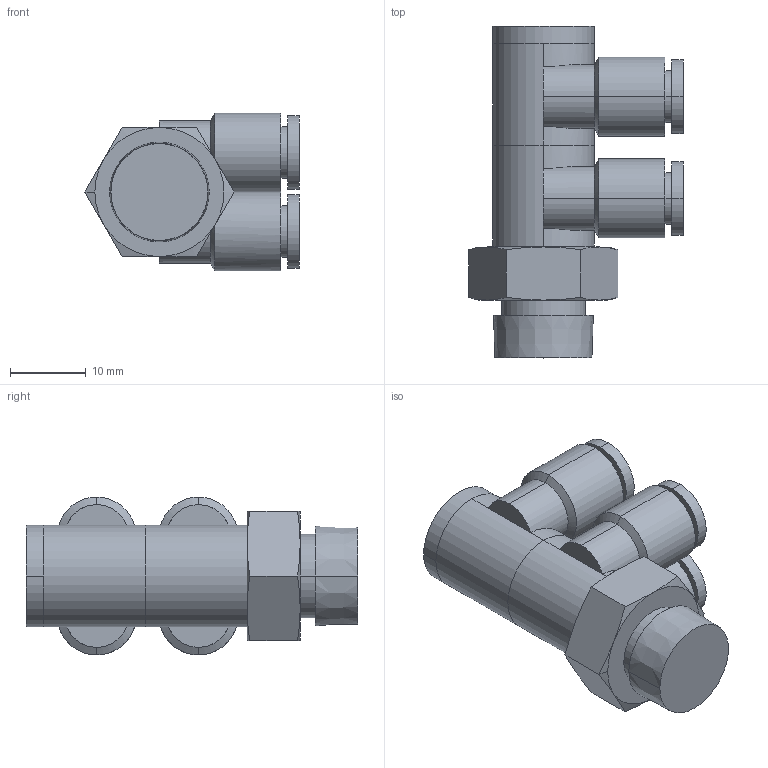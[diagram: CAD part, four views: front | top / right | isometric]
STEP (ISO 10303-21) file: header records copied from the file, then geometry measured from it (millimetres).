
FILE_DESCRIPTION (( 'STEP AP203' ), '1' );
FILE_NAME ('FZD06-02.STEP', '2020-05-11T14:47:16', ( '' ), ( '' ), 'SwSTEP 2.0', 'SolidWorks 2019', '' );
FILE_SCHEMA (( 'CONFIG_CONTROL_DESIGN' ));
Length unit declared in the file: millimetre
Products named in the file (1): FZD06-02
Bounding box: 28.21 x 43.7 x 20.8 mm (x, y, z)
Volume: 9692.3 mm3; surface area: 7901.1 mm2
Topology: 3 solids, 3 shells, 118 faces, 274 edges, 172 vertices
Faces by surface type: cylinder 52, plane 42, cone 24
Entity records: 4259 total; most frequent: CARTESIAN_POINT 1453, DIRECTION 592, ORIENTED_EDGE 548, EDGE_CURVE 274, AXIS2_PLACEMENT_3D 247, VERTEX_POINT 172, EDGE_LOOP 140, CIRCLE 128
